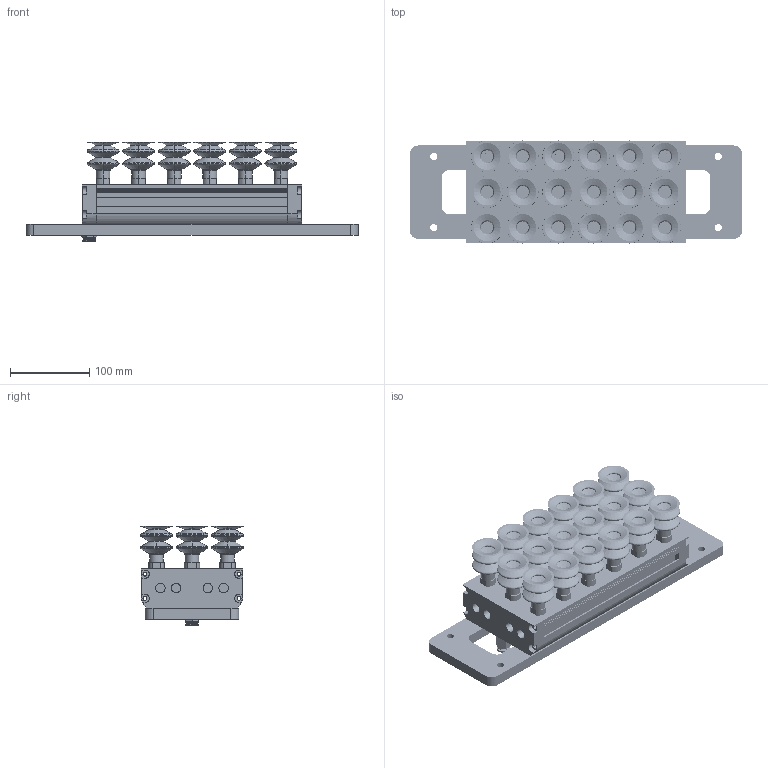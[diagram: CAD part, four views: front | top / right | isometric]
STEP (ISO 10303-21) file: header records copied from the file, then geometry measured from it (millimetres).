
FILE_DESCRIPTION (( 'STEP AP203' ), '1' );
FILE_NAME ('生态套件-码垛工作站-小吸盘组件.STEP', '2024-11-08T08:53:07', ( '' ), ( '' ), 'SwSTEP 2.0', 'SolidWorks 2018', '' );
FILE_SCHEMA (( 'CONFIG_CONTROL_DESIGN' ));
Length unit declared in the file: millimetre
Products named in the file (4): 8.0.00.8230216; 3.1.15.2014649; 生态套件-码垛工作站-小吸盘组件; 3.1.07.2014799
Assembly tree (3 placements, depth 2):
  生态套件-码垛工作站-小吸盘组件
    8.0.00.8230216
    3.1.15.2014649
    3.1.07.2014799
Bounding box: 420 x 130.35 x 126.5 mm (x, y, z)
Volume: 474211 mm3; surface area: 665797 mm2
Topology: 2 solids, 49 shells, 1761 faces, 4222 edges, 2616 vertices
Faces by surface type: bspline 530, plane 436, cylinder 401, cone 376, torus 18
Entity records: 121676 total; most frequent: CARTESIAN_POINT 81123, DIRECTION 8655, ORIENTED_EDGE 8335, EDGE_CURVE 4202, AXIS2_PLACEMENT_3D 3574, VERTEX_POINT 2608, CIRCLE 2337, EDGE_LOOP 2001
